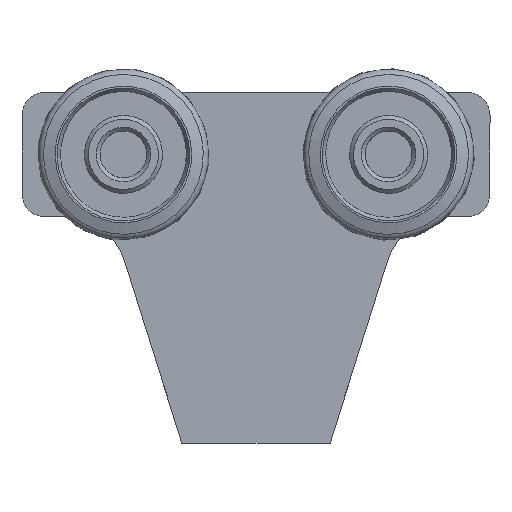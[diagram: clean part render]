
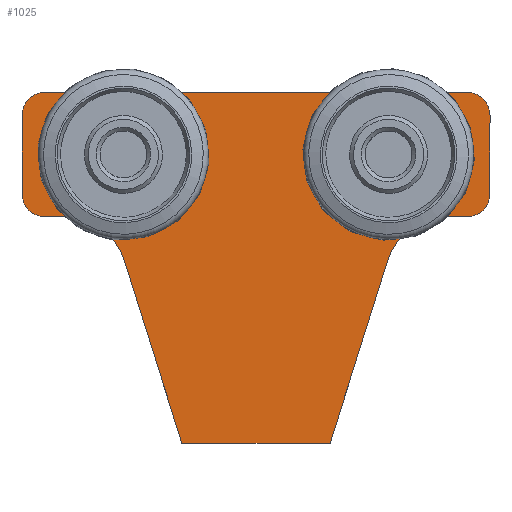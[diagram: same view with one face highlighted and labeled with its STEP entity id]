
A CAD part, top view. The second image highlights one B-rep face of the part: STEP entity #1025.
In plain terms, the highlighted planar face has unit normal (0, 0, 1).
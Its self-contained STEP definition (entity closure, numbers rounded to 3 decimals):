
#96=FACE_BOUND('',#270,.T.);
#97=FACE_BOUND('',#271,.T.);
#124=CIRCLE('',#1074,3.05);
#126=CIRCLE('',#1079,3.05);
#128=CIRCLE('',#1084,8.);
#130=CIRCLE('',#1088,3.);
#132=CIRCLE('',#1092,3.);
#134=CIRCLE('',#1096,3.);
#136=CIRCLE('',#1100,3.);
#138=CIRCLE('',#1104,8.);
#206=FACE_OUTER_BOUND('',#269,.T.);
#269=EDGE_LOOP('',(#795,#796,#797,#798,#799,#800,#801,#802,#803,#804,#805,
#806,#807,#808));
#270=EDGE_LOOP('',(#809,#810,#811,#812));
#271=EDGE_LOOP('',(#813,#814,#815,#816));
#338=LINE('',#1539,#410);
#342=LINE('',#1547,#414);
#346=LINE('',#1558,#418);
#348=LINE('',#1563,#420);
#353=LINE('',#1577,#425);
#356=LINE('',#1582,#428);
#360=LINE('',#1595,#432);
#364=LINE('',#1607,#436);
#368=LINE('',#1619,#440);
#372=LINE('',#1631,#444);
#376=LINE('',#1643,#448);
#380=LINE('',#1655,#452);
#383=LINE('',#1661,#455);
#386=LINE('',#1666,#458);
#410=VECTOR('',#1205,6.1);
#414=VECTOR('',#1211,6.3);
#418=VECTOR('',#1223,6.3);
#420=VECTOR('',#1227,6.3);
#425=VECTOR('',#1240,6.3);
#428=VECTOR('',#1245,6.1);
#432=VECTOR('',#1257,2.49);
#436=VECTOR('',#1269,10.);
#440=VECTOR('',#1281,54.);
#444=VECTOR('',#1293,10.);
#448=VECTOR('',#1305,2.49);
#452=VECTOR('',#1317,24.542);
#455=VECTOR('',#1322,19.);
#458=VECTOR('',#1327,24.542);
#482=VERTEX_POINT('',#1537);
#483=VERTEX_POINT('',#1538);
#486=VERTEX_POINT('',#1546);
#488=VERTEX_POINT('',#1552);
#490=VERTEX_POINT('',#1561);
#491=VERTEX_POINT('',#1562);
#494=VERTEX_POINT('',#1570);
#496=VERTEX_POINT('',#1576);
#498=VERTEX_POINT('',#1585);
#499=VERTEX_POINT('',#1586);
#502=VERTEX_POINT('',#1594);
#504=VERTEX_POINT('',#1600);
#506=VERTEX_POINT('',#1606);
#508=VERTEX_POINT('',#1612);
#510=VERTEX_POINT('',#1618);
#512=VERTEX_POINT('',#1624);
#514=VERTEX_POINT('',#1630);
#516=VERTEX_POINT('',#1636);
#518=VERTEX_POINT('',#1642);
#520=VERTEX_POINT('',#1648);
#522=VERTEX_POINT('',#1654);
#524=VERTEX_POINT('',#1660);
#577=EDGE_CURVE('',#482,#483,#338,.T.);
#581=EDGE_CURVE('',#483,#486,#342,.T.);
#584=EDGE_CURVE('',#486,#488,#124,.T.);
#587=EDGE_CURVE('',#488,#482,#346,.T.);
#589=EDGE_CURVE('',#490,#491,#348,.T.);
#593=EDGE_CURVE('',#491,#494,#126,.T.);
#596=EDGE_CURVE('',#494,#496,#353,.T.);
#599=EDGE_CURVE('',#496,#490,#356,.T.);
#601=EDGE_CURVE('',#498,#499,#128,.T.);
#605=EDGE_CURVE('',#499,#502,#360,.T.);
#608=EDGE_CURVE('',#502,#504,#130,.T.);
#611=EDGE_CURVE('',#504,#506,#364,.T.);
#614=EDGE_CURVE('',#506,#508,#132,.T.);
#617=EDGE_CURVE('',#508,#510,#368,.T.);
#620=EDGE_CURVE('',#510,#512,#134,.T.);
#623=EDGE_CURVE('',#512,#514,#372,.T.);
#626=EDGE_CURVE('',#514,#516,#136,.T.);
#629=EDGE_CURVE('',#516,#518,#376,.T.);
#632=EDGE_CURVE('',#518,#520,#138,.T.);
#635=EDGE_CURVE('',#520,#522,#380,.T.);
#638=EDGE_CURVE('',#522,#524,#383,.T.);
#641=EDGE_CURVE('',#524,#498,#386,.T.);
#795=ORIENTED_EDGE('',*,*,#601,.F.);
#796=ORIENTED_EDGE('',*,*,#641,.F.);
#797=ORIENTED_EDGE('',*,*,#638,.F.);
#798=ORIENTED_EDGE('',*,*,#635,.F.);
#799=ORIENTED_EDGE('',*,*,#632,.F.);
#800=ORIENTED_EDGE('',*,*,#629,.F.);
#801=ORIENTED_EDGE('',*,*,#626,.F.);
#802=ORIENTED_EDGE('',*,*,#623,.F.);
#803=ORIENTED_EDGE('',*,*,#620,.F.);
#804=ORIENTED_EDGE('',*,*,#617,.F.);
#805=ORIENTED_EDGE('',*,*,#614,.F.);
#806=ORIENTED_EDGE('',*,*,#611,.F.);
#807=ORIENTED_EDGE('',*,*,#608,.F.);
#808=ORIENTED_EDGE('',*,*,#605,.F.);
#809=ORIENTED_EDGE('',*,*,#577,.T.);
#810=ORIENTED_EDGE('',*,*,#581,.T.);
#811=ORIENTED_EDGE('',*,*,#584,.T.);
#812=ORIENTED_EDGE('',*,*,#587,.T.);
#813=ORIENTED_EDGE('',*,*,#589,.T.);
#814=ORIENTED_EDGE('',*,*,#593,.T.);
#815=ORIENTED_EDGE('',*,*,#596,.T.);
#816=ORIENTED_EDGE('',*,*,#599,.T.);
#981=PLANE('',#1109);
#1025=ADVANCED_FACE('',(#206,#96,#97),#981,.T.);
#1074=AXIS2_PLACEMENT_3D('',#1553,#1216,#1217);
#1079=AXIS2_PLACEMENT_3D('',#1571,#1233,#1234);
#1084=AXIS2_PLACEMENT_3D('',#1587,#1249,#1250);
#1088=AXIS2_PLACEMENT_3D('',#1601,#1262,#1263);
#1092=AXIS2_PLACEMENT_3D('',#1613,#1274,#1275);
#1096=AXIS2_PLACEMENT_3D('',#1625,#1286,#1287);
#1100=AXIS2_PLACEMENT_3D('',#1637,#1298,#1299);
#1104=AXIS2_PLACEMENT_3D('',#1649,#1310,#1311);
#1109=AXIS2_PLACEMENT_3D('',#1668,#1329,#1330);
#1205=DIRECTION('',(1.,0.,0.));
#1211=DIRECTION('',(0.,-1.,0.));
#1216=DIRECTION('center_axis',(0.,0.,-1.));
#1217=DIRECTION('ref_axis',(1.,0.,0.));
#1223=DIRECTION('',(0.,1.,0.));
#1227=DIRECTION('',(0.,-1.,0.));
#1233=DIRECTION('center_axis',(0.,0.,-1.));
#1234=DIRECTION('ref_axis',(1.,0.,0.));
#1240=DIRECTION('',(0.,1.,0.));
#1245=DIRECTION('',(1.,0.,0.));
#1249=DIRECTION('center_axis',(0.,0.,1.));
#1250=DIRECTION('ref_axis',(-0.954,-0.301,0.));
#1257=DIRECTION('',(1.,0.,0.));
#1262=DIRECTION('center_axis',(0.,0.,-1.));
#1263=DIRECTION('ref_axis',(-1.,0.,0.));
#1269=DIRECTION('',(0.,-1.,0.));
#1274=DIRECTION('center_axis',(0.,0.,-1.));
#1275=DIRECTION('ref_axis',(0.,1.,0.));
#1281=DIRECTION('',(-1.,0.,0.));
#1286=DIRECTION('center_axis',(0.,0.,-1.));
#1287=DIRECTION('ref_axis',(1.,0.,0.));
#1293=DIRECTION('',(0.,1.,0.));
#1298=DIRECTION('center_axis',(0.,0.,-1.));
#1299=DIRECTION('ref_axis',(0.,-1.,0.));
#1305=DIRECTION('',(1.,0.,0.));
#1310=DIRECTION('center_axis',(0.,0.,1.));
#1311=DIRECTION('ref_axis',(0.,-1.,0.));
#1317=DIRECTION('',(0.301,0.954,0.));
#1322=DIRECTION('',(1.,0.,0.));
#1327=DIRECTION('',(0.301,-0.954,0.));
#1329=DIRECTION('center_axis',(0.,0.,1.));
#1330=DIRECTION('ref_axis',(1.,0.,0.));
#1537=CARTESIAN_POINT('',(-20.05,6.3,3.));
#1538=CARTESIAN_POINT('',(-13.95,6.3,3.));
#1539=CARTESIAN_POINT('',(-10.025,6.3,3.));
#1546=CARTESIAN_POINT('',(-13.95,0.,3.));
#1547=CARTESIAN_POINT('',(-13.95,7.866,3.));
#1552=CARTESIAN_POINT('',(-20.05,0.,3.));
#1553=CARTESIAN_POINT('Origin',(-17.,0.,3.));
#1558=CARTESIAN_POINT('',(-20.05,4.716,3.));
#1561=CARTESIAN_POINT('',(20.05,6.3,3.));
#1562=CARTESIAN_POINT('',(20.05,0.,3.));
#1563=CARTESIAN_POINT('',(20.05,7.866,3.));
#1570=CARTESIAN_POINT('',(13.95,0.,3.));
#1571=CARTESIAN_POINT('Origin',(17.,0.,3.));
#1576=CARTESIAN_POINT('',(13.95,6.3,3.));
#1577=CARTESIAN_POINT('',(13.95,4.716,3.));
#1582=CARTESIAN_POINT('',(6.975,6.3,3.));
#1585=CARTESIAN_POINT('',(16.88,13.594,3.));
#1586=CARTESIAN_POINT('',(24.51,8.,3.));
#1587=CARTESIAN_POINT('Origin',(24.51,16.,3.));
#1594=CARTESIAN_POINT('',(27.,8.,3.));
#1595=CARTESIAN_POINT('',(24.51,8.,3.));
#1600=CARTESIAN_POINT('',(30.,5.,3.));
#1601=CARTESIAN_POINT('Origin',(27.,5.,3.));
#1606=CARTESIAN_POINT('',(30.,-5.,3.));
#1607=CARTESIAN_POINT('',(30.,5.,3.));
#1612=CARTESIAN_POINT('',(27.,-8.,3.));
#1613=CARTESIAN_POINT('Origin',(27.,-5.,3.));
#1618=CARTESIAN_POINT('',(-27.,-8.,3.));
#1619=CARTESIAN_POINT('',(27.,-8.,3.));
#1624=CARTESIAN_POINT('',(-30.,-5.,3.));
#1625=CARTESIAN_POINT('Origin',(-27.,-5.,3.));
#1630=CARTESIAN_POINT('',(-30.,5.,3.));
#1631=CARTESIAN_POINT('',(-30.,-5.,3.));
#1636=CARTESIAN_POINT('',(-27.,8.,3.));
#1637=CARTESIAN_POINT('Origin',(-27.,5.,3.));
#1642=CARTESIAN_POINT('',(-24.51,8.,3.));
#1643=CARTESIAN_POINT('',(-27.,8.,3.));
#1648=CARTESIAN_POINT('',(-16.88,13.594,3.));
#1649=CARTESIAN_POINT('Origin',(-24.51,16.,3.));
#1654=CARTESIAN_POINT('',(-9.5,37.,3.));
#1655=CARTESIAN_POINT('',(-16.88,13.594,3.));
#1660=CARTESIAN_POINT('',(9.5,37.,3.));
#1661=CARTESIAN_POINT('',(-9.5,37.,3.));
#1666=CARTESIAN_POINT('',(9.5,37.,3.));
#1668=CARTESIAN_POINT('Origin',(0.,9.433,
3.));
